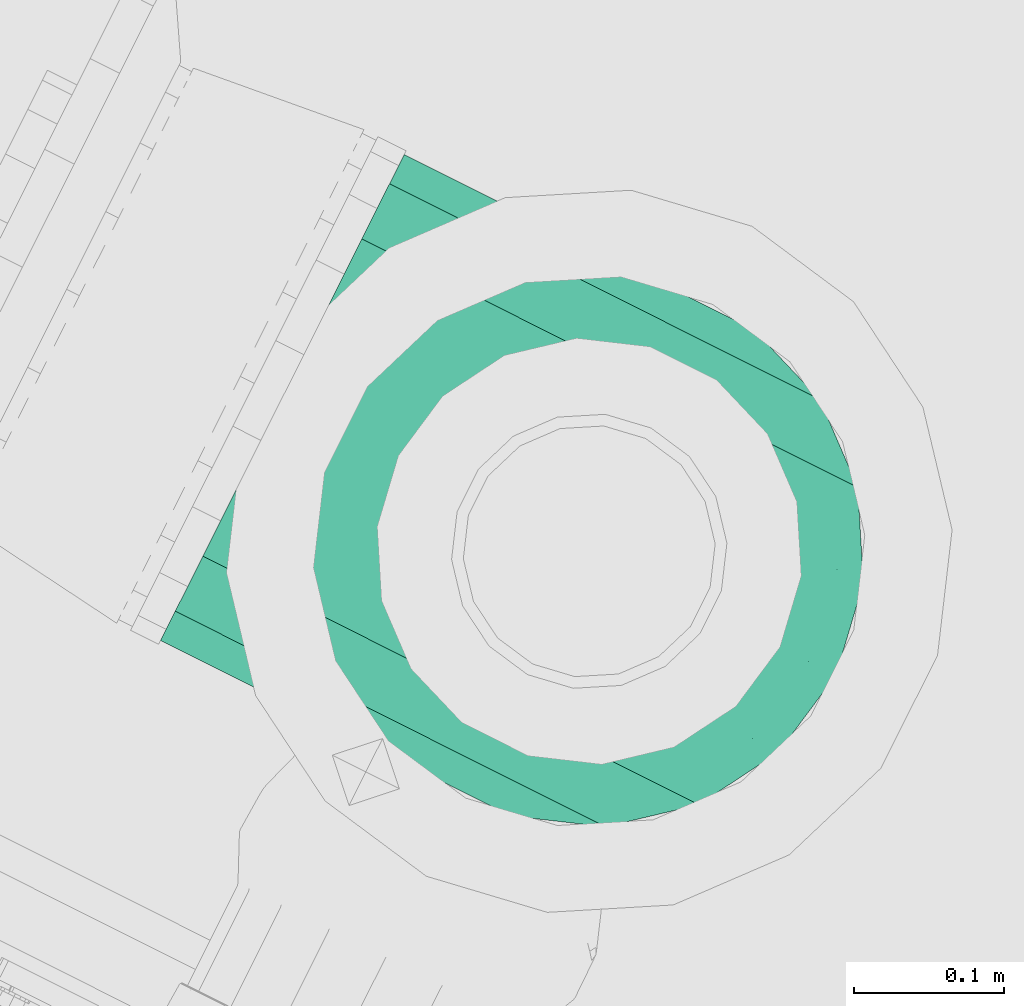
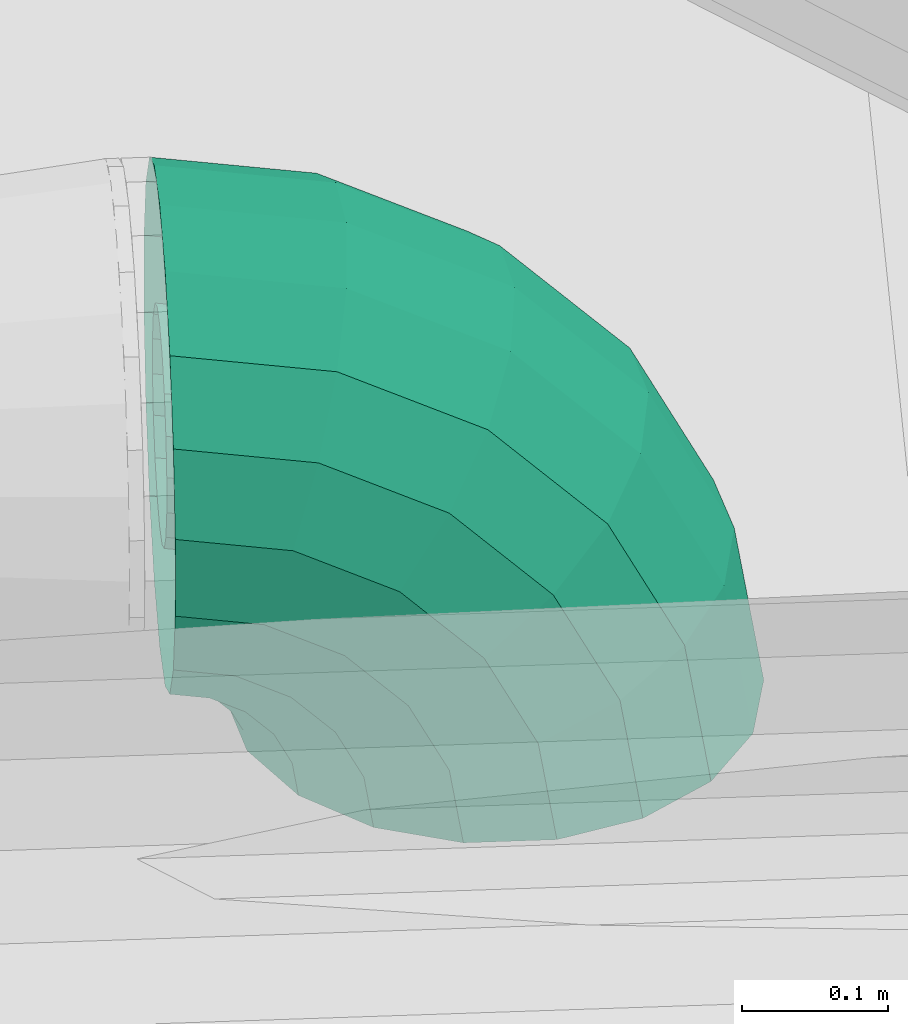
# One storey, part 47 of 206: 1 flow segment.
"""IFC2X3 building model written with IfcOpenShell, lengths in metres."""

import ifcopenshell
import ifcopenshell.guid

model = None  # the IFC model being written
_history = None  # IfcOwnerHistory: only IFC2X3 demands one
_inside = {}  # id of a spatial element -> (the spatial element, [elements in it])
_under = {}  # id of a project, library or spatial element -> (it, [spatial elements below it])
_declared = {}  # id of a project -> (the project, [libraries it declares])
_typed = {}  # id of a type object -> (the type object, [elements of that type])
_made_of = {}  # id of a material, layer set ... -> (it, [elements and type objects made of it])


def new_model(schema):
    """Start an empty IFC model of exactly this schema.

    Asked for "IFC4X3", IfcOpenShell would pick the latest addendum, in which some entities
    have other attributes; the version numbers below select the first issue.
    IFC2X3 requires an IfcOwnerHistory on every rooted entity: one is made here for all.
    """
    global model, _history
    if schema == "IFC4X3":
        model = ifcopenshell.file(schema_version=(4, 3, 0, 0))
    else:
        model = ifcopenshell.file(schema=schema)
    _inside.clear()
    _under.clear()
    _declared.clear()
    _typed.clear()
    _made_of.clear()
    _history = None
    if model.schema == "IFC2X3":
        org = make("IfcOrganization", Name="unknown")
        user = make(
            "IfcPersonAndOrganization",
            ThePerson=make("IfcPerson", FamilyName="unknown"),
            TheOrganization=org,
        )
        app = make(
            "IfcApplication",
            ApplicationDeveloper=org,
            Version="unknown",
            ApplicationFullName="unknown",
            ApplicationIdentifier="unknown",
        )
        _history = make(
            "IfcOwnerHistory",
            OwningUser=user,
            OwningApplication=app,
            ChangeAction="ADDED",
            CreationDate=0,
        )
    return model


def make(cls, **values):
    """One entity of the class cls with the attributes given. An attribute that is None is left unset."""
    return model.create_entity(
        cls, **{name: value for name, value in values.items() if value is not None}
    )


def rooted(cls, **values):
    """An entity with a GlobalId (a new one), such as an element, a storey or a relation."""
    return make(cls, GlobalId=ifcopenshell.guid.new(), OwnerHistory=_history, **values)


def si_unit(unit_type, name, prefix=None):
    """IfcSIUnit, for example si_unit("LENGTHUNIT", "METRE", prefix="MILLI")."""
    return make("IfcSIUnit", UnitType=unit_type, Prefix=prefix, Name=name)


def derived_unit(unit_type, elements):
    """IfcDerivedUnit: a product of units, each with its exponent."""
    return make(
        "IfcDerivedUnit",
        Elements=[
            make("IfcDerivedUnitElement", Unit=unit, Exponent=power)
            for unit, power in elements
        ],
        UnitType=unit_type,
    )


def assignment(units):
    """IfcUnitAssignment: the units of a project."""
    return None if units is None else make("IfcUnitAssignment", Units=units)


def point(xyz):
    """IfcCartesianPoint."""
    return None if xyz is None else make("IfcCartesianPoint", Coordinates=xyz)


def direction(xyz):
    """IfcDirection."""
    return None if xyz is None else make("IfcDirection", DirectionRatios=xyz)


def frame(location, z_axis=None, x_axis=None):
    """IfcAxis2Placement3D, a coordinate frame: its origin and axes. An axis left out is left unset."""
    return make(
        "IfcAxis2Placement3D",
        Location=point(location),
        Axis=direction(z_axis),
        RefDirection=direction(x_axis),
    )


def origin():
    """The frame at (0, 0, 0) with its axes left unset."""
    return frame((0.0, 0.0, 0.0))


def place(relative_to, where):
    """IfcLocalPlacement: puts the frame where relative to a parent placement (None: the world)."""
    return make(
        "IfcLocalPlacement", PlacementRelTo=relative_to, RelativePlacement=where
    )


def context(
    kind, dimensions, precision=None, world=None, true_north=None, identifier=None
):
    """IfcGeometricRepresentationContext, for example the 3D "Model" context."""
    return make(
        "IfcGeometricRepresentationContext",
        ContextIdentifier=identifier,
        ContextType=kind,
        CoordinateSpaceDimension=dimensions,
        Precision=precision,
        WorldCoordinateSystem=world,
        TrueNorth=true_north,
    )


def subcontext(parent, identifier, kind, view, scale=None):
    """IfcGeometricRepresentationSubContext, for example "Body" below "Model"."""
    return make(
        "IfcGeometricRepresentationSubContext",
        ContextIdentifier=identifier,
        ContextType=kind,
        ParentContext=parent,
        TargetScale=scale,
        TargetView=view,
    )


def project(units=None, contexts=None):
    """IfcProject with its units and contexts."""
    return rooted(
        "IfcProject",
        Name="project",
        RepresentationContexts=contexts,
        UnitsInContext=assignment(units),
    )


def spatial(cls, under=None, at=None, **own):
    """A site, building, storey or space (cls), placed at a placement, below another one or the project."""
    s = rooted(cls, ObjectPlacement=at, **own)
    if under is not None:
        _under.setdefault(under.id(), (under, []))[1].append(s)
    return s


def faces_of(points, faces, orient=None, outer=None):
    """IfcFace entities. A face is a list of loops; a loop is a list of indices into points, from 0.

    orient and outer hold one flag for each loop. By default every Orientation is true, the
    first loop of a face is its IfcFaceOuterBound and the others are IfcFaceBound.
    """
    made = []
    for i, loops in enumerate(faces):
        bounds = []
        for j, loop in enumerate(loops):
            is_outer = j == 0 if outer is None else outer[i][j]
            bounds.append(
                make(
                    "IfcFaceOuterBound" if is_outer else "IfcFaceBound",
                    Bound=make("IfcPolyLoop", Polygon=[points[k] for k in loop]),
                    Orientation=True if orient is None else orient[i][j],
                )
            )
        made.append(make("IfcFace", Bounds=bounds))
    return made


def face_set(faces, orient=None, outer=None):
    """The faces of one IfcConnectedFaceSet. surface_model builds it on its shared points."""
    return ("IfcConnectedFaceSet", faces, orient, outer)


def surface_model(cls, points, shells):
    """IfcFaceBasedSurfaceModel or IfcShellBasedSurfaceModel (cls): surfaces that need not close."""
    shared = [point(p) for p in points]
    made = [make(c, CfsFaces=faces_of(shared, fs, o, b)) for c, fs, o, b in shells]
    if cls == "IfcFaceBasedSurfaceModel":
        return make(cls, FbsmFaces=made)
    return make(cls, SbsmBoundary=made)


def shape(context_of_items, identifier, shape_type, items):
    """IfcShapeRepresentation: the items that make up one representation, for example the "Body"."""
    return make(
        "IfcShapeRepresentation",
        ContextOfItems=context_of_items,
        RepresentationIdentifier=identifier,
        RepresentationType=shape_type,
        Items=items,
    )


def source(mapping_origin, context_of_items, identifier, shape_type, items):
    """IfcRepresentationMap: a shape defined once, which mapped items show again and again."""
    return make(
        "IfcRepresentationMap",
        MappingOrigin=mapping_origin,
        MappedRepresentation=shape(context_of_items, identifier, shape_type, items),
    )


def transform(
    local_origin,
    x_axis=None,
    y_axis=None,
    z_axis=None,
    scale=None,
    scale2=None,
    scale3=None,
    uniform=True,
):
    """IfcCartesianTransformationOperator3D, or its non-uniform kind. x_axis, y_axis, z_axis: its Axis1, 2, 3."""
    if uniform:
        return make(
            "IfcCartesianTransformationOperator3D",
            Axis1=direction(x_axis),
            Axis2=direction(y_axis),
            LocalOrigin=point(local_origin),
            Scale=scale,
            Axis3=direction(z_axis),
        )
    return make(
        "IfcCartesianTransformationOperator3DnonUniform",
        Axis1=direction(x_axis),
        Axis2=direction(y_axis),
        LocalOrigin=point(local_origin),
        Scale=scale,
        Axis3=direction(z_axis),
        Scale2=scale2,
        Scale3=scale3,
    )


def mapped(mapping_source, mapping_target):
    """IfcMappedItem: shows the shape of a source again, moved by a transform."""
    return make(
        "IfcMappedItem", MappingSource=mapping_source, MappingTarget=mapping_target
    )


def material(Name=None, Category=None):
    """IfcMaterial."""
    return make("IfcMaterial", Name=Name, Category=Category)


def made_of(thing, what):
    """Note that an element or type object is made of a material, layer set ...; save() writes the relation."""
    if what is not None:
        _made_of.setdefault(what.id(), (what, []))[1].append(thing)
    return thing


def type_object(cls, material=None, **own):
    """A type object (cls), such as IfcWallType, which elements share."""
    return made_of(rooted(cls, **own), material)


def type_shapes(of_type, sources):
    """Give a type object the sources (RepresentationMaps) that its elements show as mapped items."""
    of_type.RepresentationMaps = sources


def element(
    cls,
    number,
    at=None,
    inside=None,
    cuts=None,
    type_object=None,
    material=None,
    context=None,
    identifier="Body",
    shape_type=None,
    held_by="IfcProductDefinitionShape",
    body=None,
    shapes=None,
    **own,
):
    """One element of the class cls, such as IfcWall. Its Tag is "e" and its number.

    at: its placement. inside: the storey or other place that contains it. cuts: it is an
    opening in that element (IfcRelVoidsElement). A single representation is given by context,
    identifier, shape_type and body (its items); several are given by shapes. held_by: the class
    of the entity that holds the representations. save() writes the other relations.
    """
    e = rooted(cls, Tag="e%d" % number, ObjectPlacement=at, **own)
    if body is not None:
        shapes = [shape(context, identifier, shape_type, body)]
    if shapes is not None:
        e.Representation = make(held_by, Representations=shapes)
    if inside is not None:
        _inside.setdefault(inside.id(), (inside, []))[1].append(e)
    if cuts is not None:
        rooted(
            "IfcRelVoidsElement", RelatingBuildingElement=cuts, RelatedOpeningElement=e
        )
    if type_object is not None:
        _typed.setdefault(type_object.id(), (type_object, []))[1].append(e)
    return made_of(e, material)


def aggregate(whole, parts):
    """IfcRelAggregates: a whole, such as a stair, and the parts it consists of."""
    return rooted("IfcRelAggregates", RelatingObject=whole, RelatedObjects=parts)


def save(model, path):
    """Write the relations noted so far, then the file.

    IfcRelAggregates (storeys below a building ...), IfcRelContainedInSpatialStructure (elements
    in a storey), IfcRelDefinesByType, IfcRelAssociatesMaterial and IfcRelDeclares: one each for
    every whole, place, type object, material and project.
    """
    for whole, parts in _under.values():
        aggregate(whole, parts)
    for where, things in _inside.values():
        rooted(
            "IfcRelContainedInSpatialStructure",
            RelatedElements=things,
            RelatingStructure=where,
        )
    for kind, things in _typed.values():
        rooted("IfcRelDefinesByType", RelatedObjects=things, RelatingType=kind)
    for what, things in _made_of.values():
        rooted("IfcRelAssociatesMaterial", RelatedObjects=things, RelatingMaterial=what)
    for by, libraries in _declared.values():
        rooted("IfcRelDeclares", RelatingContext=by, RelatedDefinitions=libraries)
    model.write(path)


model = new_model("IFC2X3")

# Units and contexts
model_context = context("Model", 3, precision=5.2338327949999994e-05, world=origin(), true_north=direction((0.0, 1.0)))
body_context = subcontext(model_context, "Body", "Model", "MODEL_VIEW")
ifc_project = project(units=[si_unit("LENGTHUNIT", "METRE"), si_unit("AREAUNIT", "SQUARE_METRE"), si_unit("VOLUMEUNIT", "CUBIC_METRE"), si_unit("MASSUNIT", "GRAM", prefix="KILO"), si_unit("PLANEANGLEUNIT", "RADIAN"), derived_unit("THERMALTRANSMITTANCEUNIT", [(si_unit("MASSUNIT", "GRAM", prefix="KILO"), 1), (si_unit("THERMODYNAMICTEMPERATUREUNIT", "KELVIN"), -1), (si_unit("TIMEUNIT", "SECOND"), -3)])], contexts=[model_context])

# Site, building, storey
site_placement = place(None, frame((0.0, 0.0, 0.0), z_axis=(0.0, 0.0, 1.0), x_axis=(0.8939966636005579, -0.4480736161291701, 0.0)))
site = spatial("IfcSite", under=ifc_project, at=site_placement, Name="Default", CompositionType="ELEMENT")
building_placement = place(site_placement, origin())
building = spatial("IfcBuilding", under=site, at=building_placement, CompositionType="ELEMENT")
storey_placement = place(building_placement, origin())
storey = spatial("IfcBuildingStorey", under=building, at=storey_placement, Name="Erdgeschoss", CompositionType="ELEMENT", Elevation=0.0)

# Flow segment
ifc_material = material(Name="IfcSurfaceStyle #1741")
distribution_element_type = type_object("IfcDistributionElementType", Name="Rohrbogen 317698:Rohrbogen 317698", material=ifc_material)
shared_shape = source(origin(), body_context, "Body", "SurfaceModel", [
    surface_model("IfcFaceBasedSurfaceModel", [(23.945821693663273, 5.395961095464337, 2.438149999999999), (23.945821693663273, 5.367180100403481, 2.4330751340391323), (24.041022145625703, 5.367180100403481, 2.4179968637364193), (24.042590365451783, 5.3959610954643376, 2.422823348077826), (24.1269037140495, 5.367180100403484, 2.374238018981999), (24.129886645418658, 5.39596109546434, 2.3783436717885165), (24.195059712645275, 5.367180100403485, 2.3060820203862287), (24.199165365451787, 5.395961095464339, 2.3090649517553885), (24.2388185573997, 5.367180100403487, 2.2202004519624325), (24.243645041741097, 5.395961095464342, 2.2217686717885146), (24.25389682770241, 5.367180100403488, 2.1249999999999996), (24.258971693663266, 5.395961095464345, 2.125000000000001), (23.945821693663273, 5.341870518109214, 2.4184626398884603), (24.03650663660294, 5.341870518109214, 2.404099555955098), (24.118314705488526, 5.341870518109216, 2.3624162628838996), (24.18323795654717, 5.341870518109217, 2.2974930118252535), (24.22492124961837, 5.3418705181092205, 2.215684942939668), (24.239284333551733, 5.341870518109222, 2.124999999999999), (23.945821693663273, 5.323085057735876, 2.3960749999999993), (24.029588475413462, 5.323085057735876, 2.382807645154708), (24.105155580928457, 5.32308505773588, 2.3443042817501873), (24.165125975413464, 5.323085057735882, 2.2843338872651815), (24.20362933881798, 5.323085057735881, 2.208766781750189), (24.216896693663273, 5.323085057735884, 2.1249999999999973), (23.945821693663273, 5.31308952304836, 2.368612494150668), (24.021102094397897, 5.31308952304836, 2.356689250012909), (24.08901352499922, 5.313089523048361, 2.3220866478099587), (24.14290834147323, 5.313089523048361, 2.268191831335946), (24.17751094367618, 5.313089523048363, 2.2002804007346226), (24.18943418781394, 5.313089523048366, 2.124999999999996), (23.945821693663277, 5.313089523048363, 2.3393875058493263), (24.012071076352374, 5.313089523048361, 2.3288946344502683), (24.071835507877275, 5.313089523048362, 2.2984431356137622), (24.119264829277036, 5.313089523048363, 2.251013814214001), (24.149716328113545, 5.313089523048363, 2.191249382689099), (24.1602091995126, 5.313089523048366, 2.1249999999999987), (23.945821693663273, 5.323085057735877, 2.3119249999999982), (24.003584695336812, 5.323085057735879, 2.302776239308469), (24.05569345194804, 5.323085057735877, 2.276225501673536), (24.09704719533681, 5.323085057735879, 2.2348717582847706), (24.123597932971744, 5.323085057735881, 2.182763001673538), (24.132746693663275, 5.323085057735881, 2.1250000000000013), (23.945821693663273, 5.341870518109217, 2.2895373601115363), (23.99666653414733, 5.341870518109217, 2.2814843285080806), (24.042534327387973, 5.341870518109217, 2.2581135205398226), (24.078935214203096, 5.341870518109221, 2.2217126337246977), (24.10230602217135, 5.3418705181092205, 2.1758448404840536), (24.11035905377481, 5.341870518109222, 2.124999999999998), (23.945821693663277, 5.367180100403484, 2.2749248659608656), (23.992151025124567, 5.367180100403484, 2.267587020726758), (24.03394531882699, 5.367180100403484, 2.2462917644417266), (24.067113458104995, 5.367180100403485, 2.2131236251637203), (24.088408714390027, 5.367180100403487, 2.1713293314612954), (24.095746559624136, 5.367180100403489, 2.1249999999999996), (23.945821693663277, 5.395961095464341, 2.269849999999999), (23.990582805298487, 5.39596109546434, 2.2627605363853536), (24.030962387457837, 5.395961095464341, 2.2421861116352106), (24.063007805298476, 5.395961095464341, 2.210140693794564), (24.083582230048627, 5.395961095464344, 2.169761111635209), (24.090671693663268, 5.3959610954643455, 2.124999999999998), (23.945821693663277, 5.4247420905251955, 2.2749248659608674), (23.992151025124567, 5.4247420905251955, 2.2675870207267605), (24.03394531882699, 5.4247420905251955, 2.246291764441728), (24.067113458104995, 5.424742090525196, 2.213123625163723), (24.088408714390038, 5.424742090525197, 2.171329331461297), (24.095746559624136, 5.424742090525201, 2.1250000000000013), (23.945821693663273, 5.450051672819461, 2.289537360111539), (23.99666653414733, 5.450051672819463, 2.2814843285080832), (24.042534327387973, 5.450051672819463, 2.258113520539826), (24.078935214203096, 5.450051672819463, 2.2217126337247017), (24.10230602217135, 5.450051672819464, 2.175844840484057), (24.110359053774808, 5.450051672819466, 2.125), (23.945821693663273, 5.4688371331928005, 2.3119250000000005), (24.003584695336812, 5.4688371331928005, 2.302776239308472), (24.055693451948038, 5.4688371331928, 2.2762255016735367), (24.09704719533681, 5.468837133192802, 2.234871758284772), (24.123597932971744, 5.468837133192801, 2.18276300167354), (24.132746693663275, 5.468837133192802, 2.125000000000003), (23.945821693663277, 5.478832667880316, 2.3393875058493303), (24.012071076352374, 5.478832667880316, 2.3288946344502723), (24.071835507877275, 5.478832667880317, 2.2984431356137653), (24.119264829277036, 5.47883266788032, 2.251013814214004), (24.149716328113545, 5.47883266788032, 2.191249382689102), (24.160209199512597, 5.4788326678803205, 2.1250000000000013), (23.945821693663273, 5.478832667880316, 2.3686124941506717), (24.021102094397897, 5.478832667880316, 2.356689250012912), (24.08901352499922, 5.478832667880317, 2.3220866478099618), (24.14290834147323, 5.478832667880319, 2.2681918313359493), (24.17751094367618, 5.47883266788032, 2.2002804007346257), (24.18943418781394, 5.478832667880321, 2.124999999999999), (23.945821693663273, 5.468837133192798, 2.396075), (24.029588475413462, 5.4688371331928, 2.3828076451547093), (24.10515558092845, 5.4688371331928, 2.3443042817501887), (24.165125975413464, 5.468837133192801, 2.2843338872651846), (24.20362933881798, 5.468837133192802, 2.20876678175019), (24.216896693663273, 5.468837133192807, 2.124999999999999), (23.945821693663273, 5.45005167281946, 2.4184626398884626), (24.03650663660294, 5.45005167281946, 2.4040995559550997), (24.118314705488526, 5.45005167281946, 2.3624162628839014), (24.18323795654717, 5.450051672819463, 2.297493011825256), (24.22492124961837, 5.450051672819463, 2.2156849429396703), (24.239284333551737, 5.450051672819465, 2.125000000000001), (23.945821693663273, 5.424742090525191, 2.4330751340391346), (24.041022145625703, 5.424742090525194, 2.417996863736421), (24.1269037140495, 5.424742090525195, 2.374238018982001), (24.195059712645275, 5.4247420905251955, 2.3060820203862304), (24.238818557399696, 5.424742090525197, 2.2202004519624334), (24.25389682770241, 5.4247420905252, 2.1250000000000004), (23.945821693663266, 5.395961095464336, 2.5381499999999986), (23.945821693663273, 5.332978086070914, 2.527044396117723), (24.07006024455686, 5.332978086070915, 2.50736694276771), (24.07349206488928, 5.395961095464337, 2.5179289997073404), (24.182137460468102, 5.3329780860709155, 2.450260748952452), (24.18866517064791, 5.395961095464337, 2.4592453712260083), (24.27108244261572, 5.332978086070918, 2.361315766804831), (24.28006706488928, 5.395961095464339, 2.3678434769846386), (24.328188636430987, 5.332978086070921, 2.24923855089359), (24.33875069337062, 5.395961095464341, 2.2526703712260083), (24.34786608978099, 5.332978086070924, 2.1249999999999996), (24.358971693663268, 5.3959610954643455, 2.1249999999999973), (23.945821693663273, 5.27759175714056, 2.4950670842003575), (24.06017871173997, 5.27759175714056, 2.4769547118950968), (24.16334166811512, 5.277591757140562, 2.424390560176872), (24.245212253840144, 5.277591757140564, 2.3425199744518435), (24.297776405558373, 5.2775917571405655, 2.239357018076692), (24.31588877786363, 5.277591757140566, 2.124999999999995), (23.945821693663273, 5.236482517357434, 2.446074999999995), (24.04503932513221, 5.236482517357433, 2.430360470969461), (24.134544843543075, 5.236482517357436, 2.384755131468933), (24.20557682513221, 5.236482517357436, 2.313723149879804), (24.251182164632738, 5.236482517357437, 2.224217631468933), (24.266896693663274, 5.236482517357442, 2.1249999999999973), (23.945821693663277, 5.214608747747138, 2.3859773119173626), (24.026468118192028, 5.214608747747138, 2.3732041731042), (24.099220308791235, 5.21460874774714, 2.3361350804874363), (24.156956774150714, 5.214608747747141, 2.278398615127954), (24.19402586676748, 5.214608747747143, 2.205646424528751), (24.206799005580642, 5.214608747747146, 2.124999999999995), (23.945821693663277, 5.214608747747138, 2.322022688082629), (24.006705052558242, 5.214608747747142, 2.312379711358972), (24.061628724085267, 5.214608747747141, 2.2843947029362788), (24.105216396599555, 5.214608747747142, 2.2408070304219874), (24.133201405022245, 5.214608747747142, 2.1858833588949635), (24.14284438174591, 5.214608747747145, 2.124999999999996), (23.945821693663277, 5.2364825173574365, 2.261924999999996), (23.988133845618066, 5.2364825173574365, 2.2552234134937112), (24.02630418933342, 5.2364825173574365, 2.2357746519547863), (24.056596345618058, 5.236482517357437, 2.2054824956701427), (24.076045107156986, 5.2364825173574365, 2.1673121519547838), (24.082746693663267, 5.236482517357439, 2.1249999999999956), (23.945821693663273, 5.277591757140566, 2.2129329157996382), (23.972994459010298, 5.2775917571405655, 2.208629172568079), (23.99750736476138, 5.2775917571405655, 2.196139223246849), (24.016960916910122, 5.2775917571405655, 2.1766856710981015), (24.02945086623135, 5.277591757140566, 2.1521727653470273), (24.033754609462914, 5.2775917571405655, 2.1249999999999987), (23.945821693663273, 5.332978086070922, 2.1809556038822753), (23.96311292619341, 5.332978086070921, 2.178216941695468), (23.978711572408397, 5.332978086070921, 2.170269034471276), (23.991090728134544, 5.332978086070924, 2.1578898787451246), (23.999038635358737, 5.332978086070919, 2.1422912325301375), (24.001777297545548, 5.3329780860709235, 2.1249999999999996), (23.945821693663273, 5.395961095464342, 2.1698499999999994), (23.959681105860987, 5.395961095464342, 2.167654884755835), (23.972183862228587, 5.395961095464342, 2.1612844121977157), (23.982106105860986, 5.395961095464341, 2.151362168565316), (23.98847657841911, 5.395961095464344, 2.138859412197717), (23.99067169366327, 5.395961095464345, 2.1249999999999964), (23.945821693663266, 5.458944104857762, 2.1809556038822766), (23.963112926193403, 5.458944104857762, 2.1782169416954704), (23.978711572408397, 5.458944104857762, 2.1702690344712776), (23.991090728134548, 5.458944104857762, 2.157889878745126), (23.99903863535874, 5.458944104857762, 2.1422912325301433), (24.001777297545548, 5.458944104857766, 2.1250000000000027), (23.945821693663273, 5.514330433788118, 2.2129329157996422), (23.972994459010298, 5.514330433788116, 2.208629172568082), (23.99750736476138, 5.514330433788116, 2.1961392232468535), (24.016960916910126, 5.514330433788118, 2.176685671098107), (24.029450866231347, 5.5143304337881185, 2.1521727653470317), (24.033754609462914, 5.51433043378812, 2.125000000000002), (23.945821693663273, 5.555439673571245, 2.261925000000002), (23.988133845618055, 5.555439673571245, 2.2552234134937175), (24.02630418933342, 5.555439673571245, 2.235774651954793), (24.056596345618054, 5.555439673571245, 2.2054824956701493), (24.076045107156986, 5.5554396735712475, 2.1673121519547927), (24.082746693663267, 5.555439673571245, 2.125000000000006), (23.945821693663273, 5.577313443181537, 2.3220226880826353), (24.00670505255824, 5.57731344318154, 2.31237971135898), (24.061628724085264, 5.577313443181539, 2.284394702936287), (24.105216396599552, 5.57731344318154, 2.2408070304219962), (24.133201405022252, 5.57731344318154, 2.18588335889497), (24.142844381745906, 5.577313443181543, 2.125000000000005), (23.945821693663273, 5.577313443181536, 2.3859773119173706), (24.026468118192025, 5.577313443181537, 2.373204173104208), (24.09922030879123, 5.577313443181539, 2.3361350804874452), (24.15695677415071, 5.5773134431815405, 2.2783986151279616), (24.194025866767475, 5.5773134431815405, 2.205646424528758), (24.206799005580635, 5.577313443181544, 2.1250000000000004), (23.945821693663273, 5.5554396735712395, 2.4460750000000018), (24.04503932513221, 5.55543967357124, 2.4303604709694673), (24.134544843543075, 5.555439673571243, 2.384755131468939), (24.20557682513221, 5.555439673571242, 2.313723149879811), (24.251182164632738, 5.555439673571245, 2.22421763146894), (24.26689669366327, 5.555439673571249, 2.125000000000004), (23.945821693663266, 5.5143304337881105, 2.4950670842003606), (24.06017871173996, 5.514330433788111, 2.4769547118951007), (24.16334166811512, 5.514330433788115, 2.424390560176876), (24.245212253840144, 5.514330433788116, 2.3425199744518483), (24.29777640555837, 5.514330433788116, 2.239357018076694), (24.31588877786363, 5.51433043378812, 2.125000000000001), (23.945821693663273, 5.458944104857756, 2.527044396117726), (24.07006024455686, 5.458944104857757, 2.5073669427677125), (24.182137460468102, 5.458944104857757, 2.450260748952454), (24.27108244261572, 5.45894410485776, 2.3613157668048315), (24.328188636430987, 5.4589441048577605, 2.2492385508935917), (24.347866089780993, 5.458944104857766, 2.1250000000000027)], [face_set([[[0, 1, 2, 3]], [[3, 2, 4, 5]], [[5, 4, 6, 7]], [[7, 6, 8, 9]], [[9, 8, 10, 11]], [[1, 12, 13, 2]], [[2, 13, 14, 4]], [[4, 14, 15, 6]], [[6, 15, 16, 8]], [[8, 16, 17, 10]], [[12, 18, 19, 13]], [[13, 19, 20, 14]], [[14, 20, 21, 15]], [[15, 21, 22, 16]], [[16, 22, 23, 17]], [[18, 24, 25, 19]], [[19, 25, 26, 20]], [[20, 26, 27, 21]], [[21, 27, 28, 22]], [[22, 28, 29, 23]], [[24, 30, 31, 25]], [[25, 31, 32, 26]], [[26, 32, 33, 27]], [[27, 33, 34, 28]], [[28, 34, 35, 29]], [[30, 36, 37, 31]], [[31, 37, 38, 32]], [[32, 38, 39, 33]], [[33, 39, 40, 34]], [[34, 40, 41, 35]], [[36, 42, 43, 37]], [[37, 43, 44, 38]], [[38, 44, 45, 39]], [[39, 45, 46, 40]], [[40, 46, 47, 41]], [[42, 48, 49, 43]], [[43, 49, 50, 44]], [[44, 50, 51, 45]], [[45, 51, 52, 46]], [[46, 52, 53, 47]], [[48, 54, 55, 49]], [[49, 55, 56, 50]], [[50, 56, 57, 51]], [[51, 57, 58, 52]], [[52, 58, 59, 53]], [[54, 60, 61, 55]], [[55, 61, 62, 56]], [[56, 62, 63, 57]], [[57, 63, 64, 58]], [[58, 64, 65, 59]], [[60, 66, 67, 61]], [[61, 67, 68, 62]], [[62, 68, 69, 63]], [[63, 69, 70, 64]], [[64, 70, 71, 65]], [[66, 72, 73, 67]], [[67, 73, 74, 68]], [[68, 74, 75, 69]], [[69, 75, 76, 70]], [[70, 76, 77, 71]], [[72, 78, 79, 73]], [[73, 79, 80, 74]], [[74, 80, 81, 75]], [[75, 81, 82, 76]], [[76, 82, 83, 77]], [[78, 84, 85, 79]], [[79, 85, 86, 80]], [[80, 86, 87, 81]], [[81, 87, 88, 82]], [[82, 88, 89, 83]], [[84, 90, 91, 85]], [[85, 91, 92, 86]], [[86, 92, 93, 87]], [[87, 93, 94, 88]], [[88, 94, 95, 89]], [[90, 96, 97, 91]], [[91, 97, 98, 92]], [[92, 98, 99, 93]], [[93, 99, 100, 94]], [[94, 100, 101, 95]], [[96, 102, 103, 97]], [[97, 103, 104, 98]], [[98, 104, 105, 99]], [[99, 105, 106, 100]], [[100, 106, 107, 101]], [[102, 0, 3, 103]], [[103, 3, 5, 104]], [[104, 5, 7, 105]], [[105, 7, 9, 106]], [[106, 9, 11, 107]], [[108, 109, 110, 111]], [[111, 110, 112, 113]], [[113, 112, 114, 115]], [[115, 114, 116, 117]], [[117, 116, 118, 119]], [[109, 120, 121, 110]], [[110, 121, 122, 112]], [[112, 122, 123, 114]], [[114, 123, 124, 116]], [[116, 124, 125, 118]], [[120, 126, 127, 121]], [[121, 127, 128, 122]], [[122, 128, 129, 123]], [[123, 129, 130, 124]], [[124, 130, 131, 125]], [[126, 132, 133, 127]], [[127, 133, 134, 128]], [[128, 134, 135, 129]], [[129, 135, 136, 130]], [[130, 136, 137, 131]], [[132, 138, 139, 133]], [[133, 139, 140, 134]], [[134, 140, 141, 135]], [[135, 141, 142, 136]], [[136, 142, 143, 137]], [[138, 144, 145, 139]], [[139, 145, 146, 140]], [[140, 146, 147, 141]], [[141, 147, 148, 142]], [[142, 148, 149, 143]], [[144, 150, 151, 145]], [[145, 151, 152, 146]], [[146, 152, 153, 147]], [[147, 153, 154, 148]], [[148, 154, 155, 149]], [[150, 156, 157, 151]], [[151, 157, 158, 152]], [[152, 158, 159, 153]], [[153, 159, 160, 154]], [[154, 160, 161, 155]], [[156, 162, 163, 157]], [[157, 163, 164, 158]], [[158, 164, 165, 159]], [[159, 165, 166, 160]], [[160, 166, 167, 161]], [[162, 168, 169, 163]], [[163, 169, 170, 164]], [[164, 170, 171, 165]], [[165, 171, 172, 166]], [[166, 172, 173, 167]], [[168, 174, 175, 169]], [[169, 175, 176, 170]], [[170, 176, 177, 171]], [[171, 177, 178, 172]], [[172, 178, 179, 173]], [[174, 180, 181, 175]], [[175, 181, 182, 176]], [[176, 182, 183, 177]], [[177, 183, 184, 178]], [[178, 184, 185, 179]], [[180, 186, 187, 181]], [[181, 187, 188, 182]], [[182, 188, 189, 183]], [[183, 189, 190, 184]], [[184, 190, 191, 185]], [[186, 192, 193, 187]], [[187, 193, 194, 188]], [[188, 194, 195, 189]], [[189, 195, 196, 190]], [[190, 196, 197, 191]], [[192, 198, 199, 193]], [[193, 199, 200, 194]], [[194, 200, 201, 195]], [[195, 201, 202, 196]], [[196, 202, 203, 197]], [[198, 204, 205, 199]], [[199, 205, 206, 200]], [[200, 206, 207, 201]], [[201, 207, 208, 202]], [[202, 208, 209, 203]], [[204, 210, 211, 205]], [[205, 211, 212, 206]], [[206, 212, 213, 207]], [[207, 213, 214, 208]], [[208, 214, 215, 209]], [[210, 108, 111, 211]], [[211, 111, 113, 212]], [[212, 113, 115, 213]], [[213, 115, 117, 214]], [[214, 117, 119, 215]]])]),
])
type_shapes(distribution_element_type, [shared_shape])
flow_segment_placement = place(storey_placement, origin())
element("IfcFlowSegment", 1, at=flow_segment_placement, inside=storey, type_object=distribution_element_type, material=ifc_material, Name="Rohrbogen", ObjectType="Rohrbogen", context=body_context, shape_type="MappedRepresentation", body=[
    mapped(shared_shape, transform((0.0, 0.0, 0.0), scale=1.0)),
])

save(model, "model.ifc")
